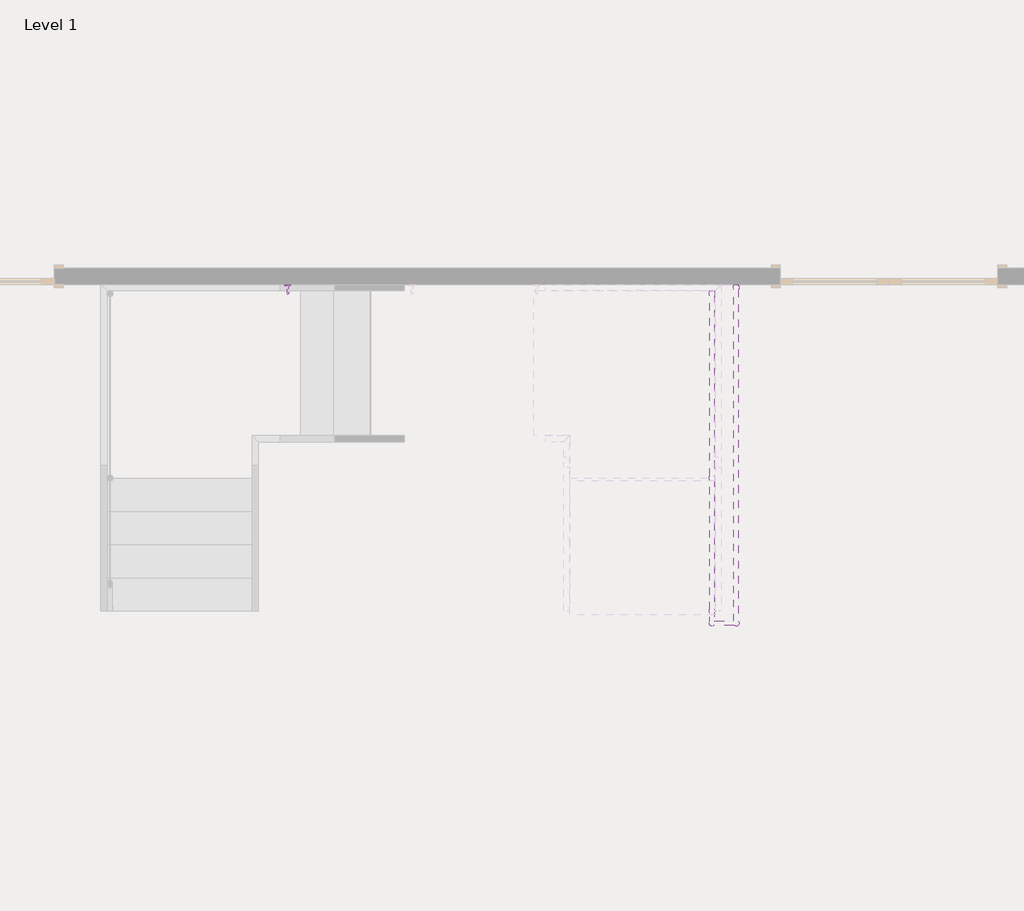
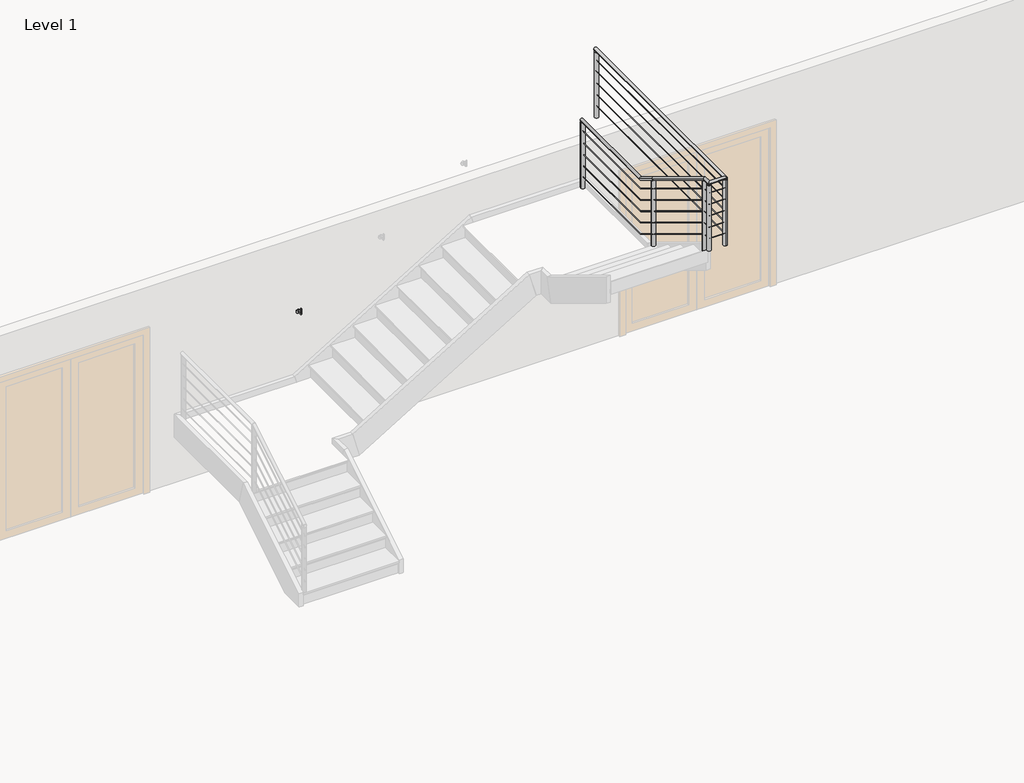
# One storey, part 6 of 7: 1 proxy, 1 railing.
"""IFC4 building model written with IfcOpenShell, lengths in millimetres."""

from ifc_helpers import new_model, si_unit, point, frame, frame_2d, origin, place, context, project, spatial, circle_curve, ellipse_curve, trimmed, segment, composite_curve, outline, extrude, transform, mapped, element, save
from ifc_brep_helpers import plane_surface, cylinder_surface, advanced_brep
from components import support_metal_circular_support_metal_circular_6fb01533

model = new_model("IFC4")

# Units and contexts
model_context = context("Model", 3, world=origin())
ifc_project = project(units=[si_unit("LENGTHUNIT", "METRE", prefix="MILLI")], contexts=[model_context])

# Site, building, storey
site = spatial("IfcSite", under=ifc_project)
building = spatial("IfcBuilding", under=site)
storey = spatial("IfcBuildingStorey", under=building, Name="Level 1", Elevation=0.0)

# Proxy
placement = place(None, origin())
support_metal_circular_support_metal_circular_shape = support_metal_circular_support_metal_circular_6fb01533(model_context)
element("IfcBuildingElementProxy", 1, Name="Support - Metal - Circular : Support - Metal - Circular", ObjectType="Support - Metal - Circular : Support - Metal - Circular", at=placement, inside=storey, context=model_context, shape_type="MappedRepresentation", body=[
    mapped(support_metal_circular_support_metal_circular_shape, transform((-4174.6676928, 6463.5483604, 1826.9361753), x_axis=(1.0, 0.0, 0.0), y_axis=(0.0, 1.0, 0.0), z_axis=(0.0, 0.0, 1.0))),
])

# Railing
element("IfcRailing", 2, ObjectType="Handrail -Wire", at=placement, inside=storey, context=model_context, shape_type="SolidModel", body=[
    advanced_brep(
    [(-631.467382, 6488.9483604, 3096.6833333), (-593.367382, 6488.9483604, 3096.6833333), (-631.467382, 5188.2262069, 3096.6833333), (-593.367382, 5188.2262069, 3096.6833333), (-593.367382, 4904.2747128, 3268.775148), (-631.467382, 4904.2747128, 3268.775148), (-631.467382, 3791.2262069, 3943.35), (-593.367382, 3791.2262069, 3943.35), (-631.467382, 3675.8983604, 3943.35), (-593.367382, 3713.9983604, 3943.35), (-390.167382, 3675.8983604, 3943.35), (-428.267382, 3713.9983604, 3943.35), (-390.167382, 6539.7483604, 3943.35), (-428.267382, 6539.7483604, 3943.35)],
    [
        (0, 1, circle_curve(frame((-612.417382, 6488.9483604, 3096.6833333), z_axis=(0.0, 1.0, 0.0), x_axis=(1.0, 0.0, 0.0)), 19.05)),
        (1, 0, circle_curve(frame((-612.417382, 6488.9483604, 3096.6833333), z_axis=(0.0, 1.0, 0.0), x_axis=(1.0, 0.0, 0.0)), 19.05)),
        (0, 2),
        (2, 3, ellipse_curve(frame((-612.417382, 5188.2262069, 3096.6833333), z_axis=(0.0, 0.9631193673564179, -0.26907449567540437), x_axis=(0.0, 0.26907449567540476, 0.963119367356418)), 19.7794797, 19.05)),
        (3, 1),
        (3, 2, ellipse_curve(frame((-612.417382, 5188.2262069, 3096.6833333), z_axis=(0.0, 0.9631193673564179, -0.26907449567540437), x_axis=(0.0, 0.26907449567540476, 0.963119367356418)), 19.7794797, 19.05)),
        (4, 5, circle_curve(frame((-612.417382, 4904.2747128, 3268.775148), z_axis=(0.0, -0.8551978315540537, 0.5183017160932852), x_axis=(1.0, 0.0, 0.0)), 19.05)),
        (5, 6),
        (6, 7, ellipse_curve(frame((-612.417382, 3791.2262069, 3943.35), z_axis=(0.0, 0.9631193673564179, -0.26907449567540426), x_axis=(0.0, -0.269074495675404, -0.9631193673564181)), 19.7794797, 19.05)),
        (7, 4),
        (5, 4, circle_curve(frame((-612.417382, 4904.2747128, 3268.775148), z_axis=(0.0, -0.8551978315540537, 0.5183017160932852), x_axis=(1.0, 0.0, 0.0)), 19.05)),
        (7, 6, ellipse_curve(frame((-612.417382, 3791.2262069, 3943.35), z_axis=(0.0, 0.9631193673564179, -0.26907449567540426), x_axis=(0.0, -0.269074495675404, -0.9631193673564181)), 19.7794797, 19.05)),
        (2, 5),
        (4, 3),
        (6, 8),
        (8, 9, ellipse_curve(frame((-612.417382, 3694.9483604, 3943.35), z_axis=(-0.7071067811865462, 0.7071067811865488, 0.0), x_axis=(0.7071067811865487, 0.7071067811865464, 0.0)), 26.9407684, 19.05)),
        (9, 7),
        (9, 8, ellipse_curve(frame((-612.417382, 3694.9483604, 3943.35), z_axis=(-0.7071067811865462, 0.7071067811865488, 0.0), x_axis=(0.7071067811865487, 0.7071067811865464, 0.0)), 26.9407684, 19.05)),
        (8, 10),
        (10, 11, ellipse_curve(frame((-409.217382, 3694.9483604, 3943.35), z_axis=(-0.7071067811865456, -0.7071067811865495, 0.0), x_axis=(-0.7071067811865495, 0.7071067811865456, 0.0)), 26.9407684, 19.05)),
        (11, 9),
        (11, 10, ellipse_curve(frame((-409.217382, 3694.9483604, 3943.35), z_axis=(-0.7071067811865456, -0.7071067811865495, 0.0), x_axis=(-0.7071067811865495, 0.7071067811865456, 0.0)), 26.9407684, 19.05)),
        (12, 13, circle_curve(frame((-409.217382, 6539.7483604, 3943.35), z_axis=(0.0, 1.0, 0.0), x_axis=(-1.0, 0.0, 0.0)), 19.05)),
        (13, 12, circle_curve(frame((-409.217382, 6539.7483604, 3943.35), z_axis=(0.0, 1.0, 0.0), x_axis=(-1.0, 0.0, 0.0)), 19.05)),
        (10, 12),
        (13, 11),
    ],
    [
        plane_surface(frame((-612.417382, 6488.9483604, 3115.7333333), z_axis=(0.0, 1.0, 0.0), x_axis=(0.0, 0.0, -1.0))),
        cylinder_surface(frame((-612.417382, 6488.9483604, 3096.6833333), z_axis=(0.0, 1.0, 0.0), x_axis=(1.0, 0.0, 0.0)), 19.05),
        cylinder_surface(frame((-612.417382, 4904.2747128, 3268.775148), z_axis=(0.0, 0.8551978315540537, -0.5183017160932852), x_axis=(1.0, 0.0, 0.0)), 19.05),
        cylinder_surface(frame((-612.417382, 5183.6747128, 3099.4418146), z_axis=(0.0, 0.8551978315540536, -0.5183017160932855), x_axis=(1.0, 0.0, 0.0)), 19.05),
        cylinder_surface(frame((-612.417382, 3796.5483604, 3943.35), z_axis=(0.0, 1.0, 0.0), x_axis=(1.0, 0.0, 0.0)), 19.05),
        cylinder_surface(frame((-612.417382, 3694.9483604, 3943.35), z_axis=(-1.0, 0.0, 0.0), x_axis=(0.0, 1.0, 0.0)), 19.05),
        plane_surface(frame((-409.217382, 6539.7483604, 3962.4), z_axis=(0.0, 1.0, 0.0), x_axis=(0.0, 0.0, 1.0))),
        cylinder_surface(frame((-409.217382, 3694.9483604, 3943.35), z_axis=(0.0, -1.0, 0.0), x_axis=(-1.0, 0.0, 0.0)), 19.05),
    ],
    [
        (0, [[1, 2]]),
        (1, [[-1, 3, 4, 5]]),
        (1, [[-2, -5, 6, -3]]),
        (2, [[7, 8, 9, 10]]),
        (2, [[11, -10, 12, -8]]),
        (3, [[-4, 13, -7, 14]]),
        (3, [[-6, -14, -11, -13]]),
        (4, [[-9, 15, 16, 17]]),
        (4, [[-12, -17, 18, -15]]),
        (5, [[-16, 19, 20, 21]]),
        (5, [[-18, -21, 22, -19]]),
        (6, [[23, 24]]),
        (7, [[-20, 25, -24, 26]]),
        (7, [[-22, -26, -23, -25]]),
    ],
),
    advanced_brep(
    [(-615.592382, 6488.9483604, 2960.1583333), (-609.242382, 6488.9483604, 2960.1583333), (-615.592382, 5192.6613349, 2960.1583333), (-609.242382, 5192.6613349, 2960.1583333), (-615.592382, 4914.1483604, 3128.9540754), (-609.242382, 4914.1483604, 3128.9540754)],
    [
        (0, 1, circle_curve(frame((-612.417382, 6488.9483604, 2960.1583333), z_axis=(0.0, 1.0, 0.0), x_axis=(1.0, 0.0, 0.0)), 3.175)),
        (1, 0, circle_curve(frame((-612.417382, 6488.9483604, 2960.1583333), z_axis=(0.0, 1.0, 0.0), x_axis=(1.0, 0.0, 0.0)), 3.175)),
        (0, 2),
        (2, 3, ellipse_curve(frame((-612.417382, 5192.6613349, 2960.1583333), z_axis=(0.0, 0.9631193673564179, -0.26907449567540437), x_axis=(0.0, 0.26907449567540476, 0.963119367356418)), 3.29658, 3.175)),
        (3, 1),
        (3, 2, ellipse_curve(frame((-612.417382, 5192.6613349, 2960.1583333), z_axis=(0.0, 0.9631193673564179, -0.26907449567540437), x_axis=(0.0, 0.26907449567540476, 0.963119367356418)), 3.29658, 3.175)),
        (4, 5, ellipse_curve(frame((-612.417382, 4914.1483604, 3128.9540754), z_axis=(0.0, -1.0, 0.0), x_axis=(0.0, 0.0, -1.0)), 3.7125913, 3.175)),
        (5, 4, ellipse_curve(frame((-612.417382, 4914.1483604, 3128.9540754), z_axis=(0.0, -1.0, 0.0), x_axis=(0.0, 0.0, -1.0)), 3.7125913, 3.175)),
        (2, 4),
        (5, 3),
    ],
    [
        plane_surface(frame((-612.417382, 6488.9483604, 2963.3333333), z_axis=(0.0, 1.0, 0.0), x_axis=(0.0, 0.0, -1.0))),
        cylinder_surface(frame((-612.417382, 6488.9483604, 2960.1583333), z_axis=(0.0, 1.0, 0.0), x_axis=(1.0, 0.0, 0.0)), 3.175),
        plane_surface(frame((-612.417382, 4914.1483604, 3132.6666667), z_axis=(0.0, -1.0, 0.0), x_axis=(0.0, 0.0, -1.0))),
        cylinder_surface(frame((-612.417382, 5191.9027525, 2960.6180802), z_axis=(0.0, 0.8551978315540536, -0.5183017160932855), x_axis=(1.0, 0.0, 0.0)), 3.175),
    ],
    [
        (0, [[1, 2]]),
        (1, [[-1, 3, 4, 5]]),
        (1, [[-2, -5, 6, -3]]),
        (2, [[7, 8]]),
        (3, [[-4, 9, -8, 10]]),
        (3, [[-6, -10, -7, -9]]),
    ],
),
    advanced_brep(
    [(-615.592382, 4914.1483604, 3128.9540754), (-609.242382, 4914.1483604, 3128.9540754), (-615.592382, 3796.5483604, 3806.2874087), (-609.242382, 3796.5483604, 3806.2874087)],
    [
        (0, 1, ellipse_curve(frame((-612.417382, 4914.1483604, 3128.9540754), z_axis=(0.0, 1.0, 0.0), x_axis=(0.0, 0.0, -1.0)), 3.7125913, 3.175)),
        (1, 0, ellipse_curve(frame((-612.417382, 4914.1483604, 3128.9540754), z_axis=(0.0, 1.0, 0.0), x_axis=(0.0, 0.0, -1.0)), 3.7125913, 3.175)),
        (2, 3, ellipse_curve(frame((-612.417382, 3796.5483604, 3806.2874087), z_axis=(0.0, -1.0, 0.0), x_axis=(0.0, 0.0, -1.0)), 3.7125913, 3.175)),
        (3, 2, ellipse_curve(frame((-612.417382, 3796.5483604, 3806.2874087), z_axis=(0.0, -1.0, 0.0), x_axis=(0.0, 0.0, -1.0)), 3.7125913, 3.175)),
        (0, 2),
        (3, 1),
    ],
    [
        plane_surface(frame((-612.417382, 4914.1483604, 3132.6666667), z_axis=(0.0, 1.0, 0.0), x_axis=(0.0, 0.0, -1.0))),
        plane_surface(frame((-612.417382, 3796.5483604, 3810.0), z_axis=(0.0, -1.0, 0.0), x_axis=(0.0, 0.0, -1.0))),
        cylinder_surface(frame((-612.417382, 4912.5027525, 3129.9514136), z_axis=(0.0, 0.8551978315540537, -0.5183017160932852), x_axis=(1.0, 0.0, 0.0)), 3.175),
    ],
    [
        (0, [[1, 2]]),
        (1, [[3, 4]]),
        (2, [[-1, 5, -4, 6]]),
        (2, [[-2, -6, -3, -5]]),
    ],
),
    advanced_brep(
    [(-615.592382, 6488.9483604, 2807.7583333), (-609.242382, 6488.9483604, 2807.7583333), (-615.592382, 5192.6613349, 2807.7583333), (-609.242382, 5192.6613349, 2807.7583333), (-615.592382, 4914.1483604, 2976.5540754), (-609.242382, 4914.1483604, 2976.5540754)],
    [
        (0, 1, circle_curve(frame((-612.417382, 6488.9483604, 2807.7583333), z_axis=(0.0, 1.0, 0.0), x_axis=(1.0, 0.0, 0.0)), 3.175)),
        (1, 0, circle_curve(frame((-612.417382, 6488.9483604, 2807.7583333), z_axis=(0.0, 1.0, 0.0), x_axis=(1.0, 0.0, 0.0)), 3.175)),
        (0, 2),
        (2, 3, ellipse_curve(frame((-612.417382, 5192.6613349, 2807.7583333), z_axis=(0.0, 0.9631193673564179, -0.26907449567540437), x_axis=(0.0, 0.26907449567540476, 0.963119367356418)), 3.29658, 3.175)),
        (3, 1),
        (3, 2, ellipse_curve(frame((-612.417382, 5192.6613349, 2807.7583333), z_axis=(0.0, 0.9631193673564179, -0.26907449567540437), x_axis=(0.0, 0.26907449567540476, 0.963119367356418)), 3.29658, 3.175)),
        (4, 5, ellipse_curve(frame((-612.417382, 4914.1483604, 2976.5540754), z_axis=(0.0, -1.0, 0.0), x_axis=(0.0, 0.0, -1.0)), 3.7125913, 3.175)),
        (5, 4, ellipse_curve(frame((-612.417382, 4914.1483604, 2976.5540754), z_axis=(0.0, -1.0, 0.0), x_axis=(0.0, 0.0, -1.0)), 3.7125913, 3.175)),
        (2, 4),
        (5, 3),
    ],
    [
        plane_surface(frame((-612.417382, 6488.9483604, 2810.9333333), z_axis=(0.0, 1.0, 0.0), x_axis=(0.0, 0.0, -1.0))),
        cylinder_surface(frame((-612.417382, 6488.9483604, 2807.7583333), z_axis=(0.0, 1.0, 0.0), x_axis=(1.0, 0.0, 0.0)), 3.175),
        plane_surface(frame((-612.417382, 4914.1483604, 2980.2666667), z_axis=(0.0, -1.0, 0.0), x_axis=(0.0, 0.0, -1.0))),
        cylinder_surface(frame((-612.417382, 5191.9027525, 2808.2180802), z_axis=(0.0, 0.8551978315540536, -0.5183017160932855), x_axis=(1.0, 0.0, 0.0)), 3.175),
    ],
    [
        (0, [[1, 2]]),
        (1, [[-1, 3, 4, 5]]),
        (1, [[-2, -5, 6, -3]]),
        (2, [[7, 8]]),
        (3, [[-4, 9, -8, 10]]),
        (3, [[-6, -10, -7, -9]]),
    ],
),
    advanced_brep(
    [(-615.592382, 4914.1483604, 2976.5540754), (-609.242382, 4914.1483604, 2976.5540754), (-615.592382, 3796.5483604, 3653.8874087), (-609.242382, 3796.5483604, 3653.8874087)],
    [
        (0, 1, ellipse_curve(frame((-612.417382, 4914.1483604, 2976.5540754), z_axis=(0.0, 1.0, 0.0), x_axis=(0.0, 0.0, -1.0)), 3.7125913, 3.175)),
        (1, 0, ellipse_curve(frame((-612.417382, 4914.1483604, 2976.5540754), z_axis=(0.0, 1.0, 0.0), x_axis=(0.0, 0.0, -1.0)), 3.7125913, 3.175)),
        (2, 3, ellipse_curve(frame((-612.417382, 3796.5483604, 3653.8874087), z_axis=(0.0, -1.0, 0.0), x_axis=(0.0, 0.0, -1.0)), 3.7125913, 3.175)),
        (3, 2, ellipse_curve(frame((-612.417382, 3796.5483604, 3653.8874087), z_axis=(0.0, -1.0, 0.0), x_axis=(0.0, 0.0, -1.0)), 3.7125913, 3.175)),
        (0, 2),
        (3, 1),
    ],
    [
        plane_surface(frame((-612.417382, 4914.1483604, 2980.2666667), z_axis=(0.0, 1.0, 0.0), x_axis=(0.0, 0.0, -1.0))),
        plane_surface(frame((-612.417382, 3796.5483604, 3657.6), z_axis=(0.0, -1.0, 0.0), x_axis=(0.0, 0.0, -1.0))),
        cylinder_surface(frame((-612.417382, 4912.5027525, 2977.5514136), z_axis=(0.0, 0.8551978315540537, -0.5183017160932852), x_axis=(1.0, 0.0, 0.0)), 3.175),
    ],
    [
        (0, [[1, 2]]),
        (1, [[3, 4]]),
        (2, [[-1, 5, -4, 6]]),
        (2, [[-2, -6, -3, -5]]),
    ],
),
    advanced_brep(
    [(-615.592382, 6488.9483604, 2655.3583333), (-609.242382, 6488.9483604, 2655.3583333), (-615.592382, 5192.6613349, 2655.3583333), (-609.242382, 5192.6613349, 2655.3583333), (-615.592382, 4914.1483604, 2824.1540754), (-609.242382, 4914.1483604, 2824.1540754)],
    [
        (0, 1, circle_curve(frame((-612.417382, 6488.9483604, 2655.3583333), z_axis=(0.0, 1.0, 0.0), x_axis=(1.0, 0.0, 0.0)), 3.175)),
        (1, 0, circle_curve(frame((-612.417382, 6488.9483604, 2655.3583333), z_axis=(0.0, 1.0, 0.0), x_axis=(1.0, 0.0, 0.0)), 3.175)),
        (0, 2),
        (2, 3, ellipse_curve(frame((-612.417382, 5192.6613349, 2655.3583333), z_axis=(0.0, 0.9631193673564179, -0.26907449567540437), x_axis=(0.0, 0.26907449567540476, 0.963119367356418)), 3.29658, 3.175)),
        (3, 1),
        (3, 2, ellipse_curve(frame((-612.417382, 5192.6613349, 2655.3583333), z_axis=(0.0, 0.9631193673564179, -0.26907449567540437), x_axis=(0.0, 0.26907449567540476, 0.963119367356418)), 3.29658, 3.175)),
        (4, 5, ellipse_curve(frame((-612.417382, 4914.1483604, 2824.1540754), z_axis=(0.0, -1.0, 0.0), x_axis=(0.0, 0.0, -1.0)), 3.7125913, 3.175)),
        (5, 4, ellipse_curve(frame((-612.417382, 4914.1483604, 2824.1540754), z_axis=(0.0, -1.0, 0.0), x_axis=(0.0, 0.0, -1.0)), 3.7125913, 3.175)),
        (2, 4),
        (5, 3),
    ],
    [
        plane_surface(frame((-612.417382, 6488.9483604, 2658.5333333), z_axis=(0.0, 1.0, 0.0), x_axis=(0.0, 0.0, -1.0))),
        cylinder_surface(frame((-612.417382, 6488.9483604, 2655.3583333), z_axis=(0.0, 1.0, 0.0), x_axis=(1.0, 0.0, 0.0)), 3.175),
        plane_surface(frame((-612.417382, 4914.1483604, 2827.8666667), z_axis=(0.0, -1.0, 0.0), x_axis=(0.0, 0.0, -1.0))),
        cylinder_surface(frame((-612.417382, 5191.9027525, 2655.8180802), z_axis=(0.0, 0.8551978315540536, -0.5183017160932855), x_axis=(1.0, 0.0, 0.0)), 3.175),
    ],
    [
        (0, [[1, 2]]),
        (1, [[-1, 3, 4, 5]]),
        (1, [[-2, -5, 6, -3]]),
        (2, [[7, 8]]),
        (3, [[-4, 9, -8, 10]]),
        (3, [[-6, -10, -7, -9]]),
    ],
),
    advanced_brep(
    [(-615.592382, 4914.1483604, 2824.1540754), (-609.242382, 4914.1483604, 2824.1540754), (-615.592382, 3796.5483604, 3501.4874087), (-609.242382, 3796.5483604, 3501.4874087)],
    [
        (0, 1, ellipse_curve(frame((-612.417382, 4914.1483604, 2824.1540754), z_axis=(0.0, 1.0, 0.0), x_axis=(0.0, 0.0, -1.0)), 3.7125913, 3.175)),
        (1, 0, ellipse_curve(frame((-612.417382, 4914.1483604, 2824.1540754), z_axis=(0.0, 1.0, 0.0), x_axis=(0.0, 0.0, -1.0)), 3.7125913, 3.175)),
        (2, 3, ellipse_curve(frame((-612.417382, 3796.5483604, 3501.4874087), z_axis=(0.0, -1.0, 0.0), x_axis=(0.0, 0.0, -1.0)), 3.7125913, 3.175)),
        (3, 2, ellipse_curve(frame((-612.417382, 3796.5483604, 3501.4874087), z_axis=(0.0, -1.0, 0.0), x_axis=(0.0, 0.0, -1.0)), 3.7125913, 3.175)),
        (0, 2),
        (3, 1),
    ],
    [
        plane_surface(frame((-612.417382, 4914.1483604, 2827.8666667), z_axis=(0.0, 1.0, 0.0), x_axis=(0.0, 0.0, -1.0))),
        plane_surface(frame((-612.417382, 3796.5483604, 3505.2), z_axis=(0.0, -1.0, 0.0), x_axis=(0.0, 0.0, -1.0))),
        cylinder_surface(frame((-612.417382, 4912.5027525, 2825.1514136), z_axis=(0.0, 0.8551978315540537, -0.5183017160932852), x_axis=(1.0, 0.0, 0.0)), 3.175),
    ],
    [
        (0, [[1, 2]]),
        (1, [[3, 4]]),
        (2, [[-1, 5, -4, 6]]),
        (2, [[-2, -6, -3, -5]]),
    ],
),
    advanced_brep(
    [(-615.592382, 6488.9483604, 2502.9583333), (-609.242382, 6488.9483604, 2502.9583333), (-615.592382, 5192.6613349, 2502.9583333), (-609.242382, 5192.6613349, 2502.9583333), (-615.592382, 4914.1483604, 2671.7540754), (-609.242382, 4914.1483604, 2671.7540754)],
    [
        (0, 1, circle_curve(frame((-612.417382, 6488.9483604, 2502.9583333), z_axis=(0.0, 1.0, 0.0), x_axis=(1.0, 0.0, 0.0)), 3.175)),
        (1, 0, circle_curve(frame((-612.417382, 6488.9483604, 2502.9583333), z_axis=(0.0, 1.0, 0.0), x_axis=(1.0, 0.0, 0.0)), 3.175)),
        (0, 2),
        (2, 3, ellipse_curve(frame((-612.417382, 5192.6613349, 2502.9583333), z_axis=(0.0, 0.9631193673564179, -0.26907449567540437), x_axis=(0.0, 0.26907449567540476, 0.963119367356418)), 3.29658, 3.175)),
        (3, 1),
        (3, 2, ellipse_curve(frame((-612.417382, 5192.6613349, 2502.9583333), z_axis=(0.0, 0.9631193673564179, -0.26907449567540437), x_axis=(0.0, 0.26907449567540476, 0.963119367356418)), 3.29658, 3.175)),
        (4, 5, ellipse_curve(frame((-612.417382, 4914.1483604, 2671.7540754), z_axis=(0.0, -1.0, 0.0), x_axis=(0.0, 0.0, -1.0)), 3.7125913, 3.175)),
        (5, 4, ellipse_curve(frame((-612.417382, 4914.1483604, 2671.7540754), z_axis=(0.0, -1.0, 0.0), x_axis=(0.0, 0.0, -1.0)), 3.7125913, 3.175)),
        (2, 4),
        (5, 3),
    ],
    [
        plane_surface(frame((-612.417382, 6488.9483604, 2506.1333333), z_axis=(0.0, 1.0, 0.0), x_axis=(0.0, 0.0, -1.0))),
        cylinder_surface(frame((-612.417382, 6488.9483604, 2502.9583333), z_axis=(0.0, 1.0, 0.0), x_axis=(1.0, 0.0, 0.0)), 3.175),
        plane_surface(frame((-612.417382, 4914.1483604, 2675.4666667), z_axis=(0.0, -1.0, 0.0), x_axis=(0.0, 0.0, -1.0))),
        cylinder_surface(frame((-612.417382, 5191.9027525, 2503.4180802), z_axis=(0.0, 0.8551978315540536, -0.5183017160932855), x_axis=(1.0, 0.0, 0.0)), 3.175),
    ],
    [
        (0, [[1, 2]]),
        (1, [[-1, 3, 4, 5]]),
        (1, [[-2, -5, 6, -3]]),
        (2, [[7, 8]]),
        (3, [[-4, 9, -8, 10]]),
        (3, [[-6, -10, -7, -9]]),
    ],
),
    advanced_brep(
    [(-615.592382, 4914.1483604, 2671.7540754), (-609.242382, 4914.1483604, 2671.7540754), (-615.592382, 3796.5483604, 3349.0874087), (-609.242382, 3796.5483604, 3349.0874087)],
    [
        (0, 1, ellipse_curve(frame((-612.417382, 4914.1483604, 2671.7540754), z_axis=(0.0, 1.0, 0.0), x_axis=(0.0, 0.0, -1.0)), 3.7125913, 3.175)),
        (1, 0, ellipse_curve(frame((-612.417382, 4914.1483604, 2671.7540754), z_axis=(0.0, 1.0, 0.0), x_axis=(0.0, 0.0, -1.0)), 3.7125913, 3.175)),
        (2, 3, ellipse_curve(frame((-612.417382, 3796.5483604, 3349.0874087), z_axis=(0.0, -1.0, 0.0), x_axis=(0.0, 0.0, -1.0)), 3.7125913, 3.175)),
        (3, 2, ellipse_curve(frame((-612.417382, 3796.5483604, 3349.0874087), z_axis=(0.0, -1.0, 0.0), x_axis=(0.0, 0.0, -1.0)), 3.7125913, 3.175)),
        (0, 2),
        (3, 1),
    ],
    [
        plane_surface(frame((-612.417382, 4914.1483604, 2675.4666667), z_axis=(0.0, 1.0, 0.0), x_axis=(0.0, 0.0, -1.0))),
        plane_surface(frame((-612.417382, 3796.5483604, 3352.8), z_axis=(0.0, -1.0, 0.0), x_axis=(0.0, 0.0, -1.0))),
        cylinder_surface(frame((-612.417382, 4912.5027525, 2672.7514136), z_axis=(0.0, 0.8551978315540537, -0.5183017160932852), x_axis=(1.0, 0.0, 0.0)), 3.175),
    ],
    [
        (0, [[1, 2]]),
        (1, [[3, 4]]),
        (2, [[-1, 5, -4, 6]]),
        (2, [[-2, -6, -3, -5]]),
    ],
),
    advanced_brep(
    [(-615.592382, 6488.9483604, 2350.5583333), (-609.242382, 6488.9483604, 2350.5583333), (-615.592382, 5192.6613349, 2350.5583333), (-609.242382, 5192.6613349, 2350.5583333), (-615.592382, 4914.1483604, 2519.3540754), (-609.242382, 4914.1483604, 2519.3540754)],
    [
        (0, 1, circle_curve(frame((-612.417382, 6488.9483604, 2350.5583333), z_axis=(0.0, 1.0, 0.0), x_axis=(1.0, 0.0, 0.0)), 3.175)),
        (1, 0, circle_curve(frame((-612.417382, 6488.9483604, 2350.5583333), z_axis=(0.0, 1.0, 0.0), x_axis=(1.0, 0.0, 0.0)), 3.175)),
        (0, 2),
        (2, 3, ellipse_curve(frame((-612.417382, 5192.6613349, 2350.5583333), z_axis=(0.0, 0.9631193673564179, -0.26907449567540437), x_axis=(0.0, 0.26907449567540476, 0.963119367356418)), 3.29658, 3.175)),
        (3, 1),
        (3, 2, ellipse_curve(frame((-612.417382, 5192.6613349, 2350.5583333), z_axis=(0.0, 0.9631193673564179, -0.26907449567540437), x_axis=(0.0, 0.26907449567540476, 0.963119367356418)), 3.29658, 3.175)),
        (4, 5, ellipse_curve(frame((-612.417382, 4914.1483604, 2519.3540754), z_axis=(0.0, -1.0, 0.0), x_axis=(0.0, 0.0, -1.0)), 3.7125913, 3.175)),
        (5, 4, ellipse_curve(frame((-612.417382, 4914.1483604, 2519.3540754), z_axis=(0.0, -1.0, 0.0), x_axis=(0.0, 0.0, -1.0)), 3.7125913, 3.175)),
        (2, 4),
        (5, 3),
    ],
    [
        plane_surface(frame((-612.417382, 6488.9483604, 2353.7333333), z_axis=(0.0, 1.0, 0.0), x_axis=(0.0, 0.0, -1.0))),
        cylinder_surface(frame((-612.417382, 6488.9483604, 2350.5583333), z_axis=(0.0, 1.0, 0.0), x_axis=(1.0, 0.0, 0.0)), 3.175),
        plane_surface(frame((-612.417382, 4914.1483604, 2523.0666667), z_axis=(0.0, -1.0, 0.0), x_axis=(0.0, 0.0, -1.0))),
        cylinder_surface(frame((-612.417382, 5191.9027525, 2351.0180802), z_axis=(0.0, 0.8551978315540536, -0.5183017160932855), x_axis=(1.0, 0.0, 0.0)), 3.175),
    ],
    [
        (0, [[1, 2]]),
        (1, [[-1, 3, 4, 5]]),
        (1, [[-2, -5, 6, -3]]),
        (2, [[7, 8]]),
        (3, [[-4, 9, -8, 10]]),
        (3, [[-6, -10, -7, -9]]),
    ],
),
    advanced_brep(
    [(-615.592382, 4914.1483604, 2519.3540754), (-609.242382, 4914.1483604, 2519.3540754), (-615.592382, 3796.5483604, 3196.6874087), (-609.242382, 3796.5483604, 3196.6874087)],
    [
        (0, 1, ellipse_curve(frame((-612.417382, 4914.1483604, 2519.3540754), z_axis=(0.0, 1.0, 0.0), x_axis=(0.0, 0.0, -1.0)), 3.7125913, 3.175)),
        (1, 0, ellipse_curve(frame((-612.417382, 4914.1483604, 2519.3540754), z_axis=(0.0, 1.0, 0.0), x_axis=(0.0, 0.0, -1.0)), 3.7125913, 3.175)),
        (2, 3, ellipse_curve(frame((-612.417382, 3796.5483604, 3196.6874087), z_axis=(0.0, -1.0, 0.0), x_axis=(0.0, 0.0, -1.0)), 3.7125913, 3.175)),
        (3, 2, ellipse_curve(frame((-612.417382, 3796.5483604, 3196.6874087), z_axis=(0.0, -1.0, 0.0), x_axis=(0.0, 0.0, -1.0)), 3.7125913, 3.175)),
        (0, 2),
        (3, 1),
    ],
    [
        plane_surface(frame((-612.417382, 4914.1483604, 2523.0666667), z_axis=(0.0, 1.0, 0.0), x_axis=(0.0, 0.0, -1.0))),
        plane_surface(frame((-612.417382, 3796.5483604, 3200.4), z_axis=(0.0, -1.0, 0.0), x_axis=(0.0, 0.0, -1.0))),
        cylinder_surface(frame((-612.417382, 4912.5027525, 2520.3514136), z_axis=(0.0, 0.8551978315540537, -0.5183017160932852), x_axis=(1.0, 0.0, 0.0)), 3.175),
    ],
    [
        (0, [[1, 2]]),
        (1, [[3, 4]]),
        (2, [[-1, 5, -4, 6]]),
        (2, [[-2, -6, -3, -5]]),
    ],
),
    advanced_brep(
    [(-615.592382, 3796.5483604, 3806.825), (-609.242382, 3796.5483604, 3806.825), (-615.592382, 3698.1233604, 3806.825), (-609.242382, 3698.1233604, 3806.825)],
    [
        (0, 1, circle_curve(frame((-612.417382, 3796.5483604, 3806.825), z_axis=(0.0, 1.0, 0.0), x_axis=(1.0, 0.0, 0.0)), 3.175)),
        (1, 0, circle_curve(frame((-612.417382, 3796.5483604, 3806.825), z_axis=(0.0, 1.0, 0.0), x_axis=(1.0, 0.0, 0.0)), 3.175)),
        (2, 3, circle_curve(frame((-612.417382, 3698.1233604, 3806.825), z_axis=(0.0, -1.0, 0.0), x_axis=(1.0, 0.0, 0.0)), 3.175)),
        (3, 2, circle_curve(frame((-612.417382, 3698.1233604, 3806.825), z_axis=(0.0, -1.0, 0.0), x_axis=(1.0, 0.0, 0.0)), 3.175)),
        (0, 2),
        (3, 1),
    ],
    [
        plane_surface(frame((-612.417382, 3796.5483604, 3810.0), z_axis=(0.0, 1.0, 0.0), x_axis=(0.0, 0.0, -1.0))),
        plane_surface(frame((-612.417382, 3698.1233604, 3810.0), z_axis=(0.0, -1.0, 0.0), x_axis=(0.0, 0.0, -1.0))),
        cylinder_surface(frame((-612.417382, 3796.5483604, 3806.825), z_axis=(0.0, 1.0, 0.0), x_axis=(1.0, 0.0, 0.0)), 3.175),
    ],
    [
        (0, [[1, 2]]),
        (1, [[3, 4]]),
        (2, [[-1, 5, -4, 6]]),
        (2, [[-2, -6, -3, -5]]),
    ],
),
    advanced_brep(
    [(-615.592382, 3691.7733604, 3806.825), (-615.592382, 3698.1233604, 3806.825), (-412.392382, 3691.7733604, 3806.825), (-412.392382, 3698.1233604, 3806.825)],
    [
        (0, 1, circle_curve(frame((-615.592382, 3694.9483604, 3806.825), z_axis=(-1.0, 0.0, 0.0), x_axis=(0.0, 1.0, 0.0)), 3.175)),
        (1, 0, circle_curve(frame((-615.592382, 3694.9483604, 3806.825), z_axis=(-1.0, 0.0, 0.0), x_axis=(0.0, 1.0, 0.0)), 3.175)),
        (2, 3, circle_curve(frame((-412.392382, 3694.9483604, 3806.825), z_axis=(1.0, 0.0, 0.0), x_axis=(0.0, 1.0, 0.0)), 3.175)),
        (3, 2, circle_curve(frame((-412.392382, 3694.9483604, 3806.825), z_axis=(1.0, 0.0, 0.0), x_axis=(0.0, 1.0, 0.0)), 3.175)),
        (0, 2),
        (3, 1),
    ],
    [
        plane_surface(frame((-615.592382, 3694.9483604, 3810.0), z_axis=(-1.0, 0.0, 0.0), x_axis=(0.0, 1.0, 0.0))),
        plane_surface(frame((-412.392382, 3694.9483604, 3810.0), z_axis=(1.0, 0.0, 0.0), x_axis=(0.0, 1.0, 0.0))),
        cylinder_surface(frame((-615.592382, 3694.9483604, 3806.825), z_axis=(-1.0, 0.0, 0.0), x_axis=(0.0, 1.0, 0.0)), 3.175),
    ],
    [
        (0, [[1, 2]]),
        (1, [[3, 4]]),
        (2, [[-1, 5, -4, 6]]),
        (2, [[-2, -6, -3, -5]]),
    ],
),
    advanced_brep(
    [(-406.042382, 3691.7733604, 3806.825), (-412.392382, 3691.7733604, 3806.825), (-406.042382, 6539.7483604, 3806.825), (-412.392382, 6539.7483604, 3806.825)],
    [
        (0, 1, circle_curve(frame((-409.217382, 3691.7733604, 3806.825), z_axis=(0.0, -1.0, 0.0), x_axis=(-1.0, 0.0, 0.0)), 3.175)),
        (1, 0, circle_curve(frame((-409.217382, 3691.7733604, 3806.825), z_axis=(0.0, -1.0, 0.0), x_axis=(-1.0, 0.0, 0.0)), 3.175)),
        (2, 3, circle_curve(frame((-409.217382, 6539.7483604, 3806.825), z_axis=(0.0, 1.0, 0.0), x_axis=(-1.0, 0.0, 0.0)), 3.175)),
        (3, 2, circle_curve(frame((-409.217382, 6539.7483604, 3806.825), z_axis=(0.0, 1.0, 0.0), x_axis=(-1.0, 0.0, 0.0)), 3.175)),
        (0, 2),
        (3, 1),
    ],
    [
        plane_surface(frame((-409.217382, 3691.7733604, 3810.0), z_axis=(0.0, -1.0, 0.0), x_axis=(0.0, 0.0, 1.0))),
        plane_surface(frame((-409.217382, 6539.7483604, 3810.0), z_axis=(0.0, 1.0, 0.0), x_axis=(0.0, 0.0, 1.0))),
        cylinder_surface(frame((-409.217382, 3691.7733604, 3806.825), z_axis=(0.0, -1.0, 0.0), x_axis=(-1.0, 0.0, 0.0)), 3.175),
    ],
    [
        (0, [[1, 2]]),
        (1, [[3, 4]]),
        (2, [[-1, 5, -4, 6]]),
        (2, [[-2, -6, -3, -5]]),
    ],
),
    advanced_brep(
    [(-615.592382, 3796.5483604, 3654.425), (-609.242382, 3796.5483604, 3654.425), (-615.592382, 3698.1233604, 3654.425), (-609.242382, 3698.1233604, 3654.425)],
    [
        (0, 1, circle_curve(frame((-612.417382, 3796.5483604, 3654.425), z_axis=(0.0, 1.0, 0.0), x_axis=(1.0, 0.0, 0.0)), 3.175)),
        (1, 0, circle_curve(frame((-612.417382, 3796.5483604, 3654.425), z_axis=(0.0, 1.0, 0.0), x_axis=(1.0, 0.0, 0.0)), 3.175)),
        (2, 3, circle_curve(frame((-612.417382, 3698.1233604, 3654.425), z_axis=(0.0, -1.0, 0.0), x_axis=(1.0, 0.0, 0.0)), 3.175)),
        (3, 2, circle_curve(frame((-612.417382, 3698.1233604, 3654.425), z_axis=(0.0, -1.0, 0.0), x_axis=(1.0, 0.0, 0.0)), 3.175)),
        (0, 2),
        (3, 1),
    ],
    [
        plane_surface(frame((-612.417382, 3796.5483604, 3657.6), z_axis=(0.0, 1.0, 0.0), x_axis=(0.0, 0.0, -1.0))),
        plane_surface(frame((-612.417382, 3698.1233604, 3657.6), z_axis=(0.0, -1.0, 0.0), x_axis=(0.0, 0.0, -1.0))),
        cylinder_surface(frame((-612.417382, 3796.5483604, 3654.425), z_axis=(0.0, 1.0, 0.0), x_axis=(1.0, 0.0, 0.0)), 3.175),
    ],
    [
        (0, [[1, 2]]),
        (1, [[3, 4]]),
        (2, [[-1, 5, -4, 6]]),
        (2, [[-2, -6, -3, -5]]),
    ],
),
    advanced_brep(
    [(-615.592382, 3691.7733604, 3654.425), (-615.592382, 3698.1233604, 3654.425), (-412.392382, 3691.7733604, 3654.425), (-412.392382, 3698.1233604, 3654.425)],
    [
        (0, 1, circle_curve(frame((-615.592382, 3694.9483604, 3654.425), z_axis=(-1.0, 0.0, 0.0), x_axis=(0.0, 1.0, 0.0)), 3.175)),
        (1, 0, circle_curve(frame((-615.592382, 3694.9483604, 3654.425), z_axis=(-1.0, 0.0, 0.0), x_axis=(0.0, 1.0, 0.0)), 3.175)),
        (2, 3, circle_curve(frame((-412.392382, 3694.9483604, 3654.425), z_axis=(1.0, 0.0, 0.0), x_axis=(0.0, 1.0, 0.0)), 3.175)),
        (3, 2, circle_curve(frame((-412.392382, 3694.9483604, 3654.425), z_axis=(1.0, 0.0, 0.0), x_axis=(0.0, 1.0, 0.0)), 3.175)),
        (0, 2),
        (3, 1),
    ],
    [
        plane_surface(frame((-615.592382, 3694.9483604, 3657.6), z_axis=(-1.0, 0.0, 0.0), x_axis=(0.0, 1.0, 0.0))),
        plane_surface(frame((-412.392382, 3694.9483604, 3657.6), z_axis=(1.0, 0.0, 0.0), x_axis=(0.0, 1.0, 0.0))),
        cylinder_surface(frame((-615.592382, 3694.9483604, 3654.425), z_axis=(-1.0, 0.0, 0.0), x_axis=(0.0, 1.0, 0.0)), 3.175),
    ],
    [
        (0, [[1, 2]]),
        (1, [[3, 4]]),
        (2, [[-1, 5, -4, 6]]),
        (2, [[-2, -6, -3, -5]]),
    ],
),
    advanced_brep(
    [(-406.042382, 3691.7733604, 3654.425), (-412.392382, 3691.7733604, 3654.425), (-406.042382, 6539.7483604, 3654.425), (-412.392382, 6539.7483604, 3654.425)],
    [
        (0, 1, circle_curve(frame((-409.217382, 3691.7733604, 3654.425), z_axis=(0.0, -1.0, 0.0), x_axis=(-1.0, 0.0, 0.0)), 3.175)),
        (1, 0, circle_curve(frame((-409.217382, 3691.7733604, 3654.425), z_axis=(0.0, -1.0, 0.0), x_axis=(-1.0, 0.0, 0.0)), 3.175)),
        (2, 3, circle_curve(frame((-409.217382, 6539.7483604, 3654.425), z_axis=(0.0, 1.0, 0.0), x_axis=(-1.0, 0.0, 0.0)), 3.175)),
        (3, 2, circle_curve(frame((-409.217382, 6539.7483604, 3654.425), z_axis=(0.0, 1.0, 0.0), x_axis=(-1.0, 0.0, 0.0)), 3.175)),
        (0, 2),
        (3, 1),
    ],
    [
        plane_surface(frame((-409.217382, 3691.7733604, 3657.6), z_axis=(0.0, -1.0, 0.0), x_axis=(0.0, 0.0, 1.0))),
        plane_surface(frame((-409.217382, 6539.7483604, 3657.6), z_axis=(0.0, 1.0, 0.0), x_axis=(0.0, 0.0, 1.0))),
        cylinder_surface(frame((-409.217382, 3691.7733604, 3654.425), z_axis=(0.0, -1.0, 0.0), x_axis=(-1.0, 0.0, 0.0)), 3.175),
    ],
    [
        (0, [[1, 2]]),
        (1, [[3, 4]]),
        (2, [[-1, 5, -4, 6]]),
        (2, [[-2, -6, -3, -5]]),
    ],
),
    advanced_brep(
    [(-615.592382, 3796.5483604, 3502.025), (-609.242382, 3796.5483604, 3502.025), (-615.592382, 3698.1233604, 3502.025), (-609.242382, 3698.1233604, 3502.025)],
    [
        (0, 1, circle_curve(frame((-612.417382, 3796.5483604, 3502.025), z_axis=(0.0, 1.0, 0.0), x_axis=(1.0, 0.0, 0.0)), 3.175)),
        (1, 0, circle_curve(frame((-612.417382, 3796.5483604, 3502.025), z_axis=(0.0, 1.0, 0.0), x_axis=(1.0, 0.0, 0.0)), 3.175)),
        (2, 3, circle_curve(frame((-612.417382, 3698.1233604, 3502.025), z_axis=(0.0, -1.0, 0.0), x_axis=(1.0, 0.0, 0.0)), 3.175)),
        (3, 2, circle_curve(frame((-612.417382, 3698.1233604, 3502.025), z_axis=(0.0, -1.0, 0.0), x_axis=(1.0, 0.0, 0.0)), 3.175)),
        (0, 2),
        (3, 1),
    ],
    [
        plane_surface(frame((-612.417382, 3796.5483604, 3505.2), z_axis=(0.0, 1.0, 0.0), x_axis=(0.0, 0.0, -1.0))),
        plane_surface(frame((-612.417382, 3698.1233604, 3505.2), z_axis=(0.0, -1.0, 0.0), x_axis=(0.0, 0.0, -1.0))),
        cylinder_surface(frame((-612.417382, 3796.5483604, 3502.025), z_axis=(0.0, 1.0, 0.0), x_axis=(1.0, 0.0, 0.0)), 3.175),
    ],
    [
        (0, [[1, 2]]),
        (1, [[3, 4]]),
        (2, [[-1, 5, -4, 6]]),
        (2, [[-2, -6, -3, -5]]),
    ],
),
    advanced_brep(
    [(-615.592382, 3691.7733604, 3502.025), (-615.592382, 3698.1233604, 3502.025), (-412.392382, 3691.7733604, 3502.025), (-412.392382, 3698.1233604, 3502.025)],
    [
        (0, 1, circle_curve(frame((-615.592382, 3694.9483604, 3502.025), z_axis=(-1.0, 0.0, 0.0), x_axis=(0.0, 1.0, 0.0)), 3.175)),
        (1, 0, circle_curve(frame((-615.592382, 3694.9483604, 3502.025), z_axis=(-1.0, 0.0, 0.0), x_axis=(0.0, 1.0, 0.0)), 3.175)),
        (2, 3, circle_curve(frame((-412.392382, 3694.9483604, 3502.025), z_axis=(1.0, 0.0, 0.0), x_axis=(0.0, 1.0, 0.0)), 3.175)),
        (3, 2, circle_curve(frame((-412.392382, 3694.9483604, 3502.025), z_axis=(1.0, 0.0, 0.0), x_axis=(0.0, 1.0, 0.0)), 3.175)),
        (0, 2),
        (3, 1),
    ],
    [
        plane_surface(frame((-615.592382, 3694.9483604, 3505.2), z_axis=(-1.0, 0.0, 0.0), x_axis=(0.0, 1.0, 0.0))),
        plane_surface(frame((-412.392382, 3694.9483604, 3505.2), z_axis=(1.0, 0.0, 0.0), x_axis=(0.0, 1.0, 0.0))),
        cylinder_surface(frame((-615.592382, 3694.9483604, 3502.025), z_axis=(-1.0, 0.0, 0.0), x_axis=(0.0, 1.0, 0.0)), 3.175),
    ],
    [
        (0, [[1, 2]]),
        (1, [[3, 4]]),
        (2, [[-1, 5, -4, 6]]),
        (2, [[-2, -6, -3, -5]]),
    ],
),
    advanced_brep(
    [(-406.042382, 3691.7733604, 3502.025), (-412.392382, 3691.7733604, 3502.025), (-406.042382, 6539.7483604, 3502.025), (-412.392382, 6539.7483604, 3502.025)],
    [
        (0, 1, circle_curve(frame((-409.217382, 3691.7733604, 3502.025), z_axis=(0.0, -1.0, 0.0), x_axis=(-1.0, 0.0, 0.0)), 3.175)),
        (1, 0, circle_curve(frame((-409.217382, 3691.7733604, 3502.025), z_axis=(0.0, -1.0, 0.0), x_axis=(-1.0, 0.0, 0.0)), 3.175)),
        (2, 3, circle_curve(frame((-409.217382, 6539.7483604, 3502.025), z_axis=(0.0, 1.0, 0.0), x_axis=(-1.0, 0.0, 0.0)), 3.175)),
        (3, 2, circle_curve(frame((-409.217382, 6539.7483604, 3502.025), z_axis=(0.0, 1.0, 0.0), x_axis=(-1.0, 0.0, 0.0)), 3.175)),
        (0, 2),
        (3, 1),
    ],
    [
        plane_surface(frame((-409.217382, 3691.7733604, 3505.2), z_axis=(0.0, -1.0, 0.0), x_axis=(0.0, 0.0, 1.0))),
        plane_surface(frame((-409.217382, 6539.7483604, 3505.2), z_axis=(0.0, 1.0, 0.0), x_axis=(0.0, 0.0, 1.0))),
        cylinder_surface(frame((-409.217382, 3691.7733604, 3502.025), z_axis=(0.0, -1.0, 0.0), x_axis=(-1.0, 0.0, 0.0)), 3.175),
    ],
    [
        (0, [[1, 2]]),
        (1, [[3, 4]]),
        (2, [[-1, 5, -4, 6]]),
        (2, [[-2, -6, -3, -5]]),
    ],
),
    advanced_brep(
    [(-615.592382, 3796.5483604, 3349.625), (-609.242382, 3796.5483604, 3349.625), (-615.592382, 3698.1233604, 3349.625), (-609.242382, 3698.1233604, 3349.625)],
    [
        (0, 1, circle_curve(frame((-612.417382, 3796.5483604, 3349.625), z_axis=(0.0, 1.0, 0.0), x_axis=(1.0, 0.0, 0.0)), 3.175)),
        (1, 0, circle_curve(frame((-612.417382, 3796.5483604, 3349.625), z_axis=(0.0, 1.0, 0.0), x_axis=(1.0, 0.0, 0.0)), 3.175)),
        (2, 3, circle_curve(frame((-612.417382, 3698.1233604, 3349.625), z_axis=(0.0, -1.0, 0.0), x_axis=(1.0, 0.0, 0.0)), 3.175)),
        (3, 2, circle_curve(frame((-612.417382, 3698.1233604, 3349.625), z_axis=(0.0, -1.0, 0.0), x_axis=(1.0, 0.0, 0.0)), 3.175)),
        (0, 2),
        (3, 1),
    ],
    [
        plane_surface(frame((-612.417382, 3796.5483604, 3352.8), z_axis=(0.0, 1.0, 0.0), x_axis=(0.0, 0.0, -1.0))),
        plane_surface(frame((-612.417382, 3698.1233604, 3352.8), z_axis=(0.0, -1.0, 0.0), x_axis=(0.0, 0.0, -1.0))),
        cylinder_surface(frame((-612.417382, 3796.5483604, 3349.625), z_axis=(0.0, 1.0, 0.0), x_axis=(1.0, 0.0, 0.0)), 3.175),
    ],
    [
        (0, [[1, 2]]),
        (1, [[3, 4]]),
        (2, [[-1, 5, -4, 6]]),
        (2, [[-2, -6, -3, -5]]),
    ],
),
    advanced_brep(
    [(-615.592382, 3691.7733604, 3349.625), (-615.592382, 3698.1233604, 3349.625), (-412.392382, 3691.7733604, 3349.625), (-412.392382, 3698.1233604, 3349.625)],
    [
        (0, 1, circle_curve(frame((-615.592382, 3694.9483604, 3349.625), z_axis=(-1.0, 0.0, 0.0), x_axis=(0.0, 1.0, 0.0)), 3.175)),
        (1, 0, circle_curve(frame((-615.592382, 3694.9483604, 3349.625), z_axis=(-1.0, 0.0, 0.0), x_axis=(0.0, 1.0, 0.0)), 3.175)),
        (2, 3, circle_curve(frame((-412.392382, 3694.9483604, 3349.625), z_axis=(1.0, 0.0, 0.0), x_axis=(0.0, 1.0, 0.0)), 3.175)),
        (3, 2, circle_curve(frame((-412.392382, 3694.9483604, 3349.625), z_axis=(1.0, 0.0, 0.0), x_axis=(0.0, 1.0, 0.0)), 3.175)),
        (0, 2),
        (3, 1),
    ],
    [
        plane_surface(frame((-615.592382, 3694.9483604, 3352.8), z_axis=(-1.0, 0.0, 0.0), x_axis=(0.0, 1.0, 0.0))),
        plane_surface(frame((-412.392382, 3694.9483604, 3352.8), z_axis=(1.0, 0.0, 0.0), x_axis=(0.0, 1.0, 0.0))),
        cylinder_surface(frame((-615.592382, 3694.9483604, 3349.625), z_axis=(-1.0, 0.0, 0.0), x_axis=(0.0, 1.0, 0.0)), 3.175),
    ],
    [
        (0, [[1, 2]]),
        (1, [[3, 4]]),
        (2, [[-1, 5, -4, 6]]),
        (2, [[-2, -6, -3, -5]]),
    ],
),
    advanced_brep(
    [(-406.042382, 3691.7733604, 3349.625), (-412.392382, 3691.7733604, 3349.625), (-406.042382, 6539.7483604, 3349.625), (-412.392382, 6539.7483604, 3349.625)],
    [
        (0, 1, circle_curve(frame((-409.217382, 3691.7733604, 3349.625), z_axis=(0.0, -1.0, 0.0), x_axis=(-1.0, 0.0, 0.0)), 3.175)),
        (1, 0, circle_curve(frame((-409.217382, 3691.7733604, 3349.625), z_axis=(0.0, -1.0, 0.0), x_axis=(-1.0, 0.0, 0.0)), 3.175)),
        (2, 3, circle_curve(frame((-409.217382, 6539.7483604, 3349.625), z_axis=(0.0, 1.0, 0.0), x_axis=(-1.0, 0.0, 0.0)), 3.175)),
        (3, 2, circle_curve(frame((-409.217382, 6539.7483604, 3349.625), z_axis=(0.0, 1.0, 0.0), x_axis=(-1.0, 0.0, 0.0)), 3.175)),
        (0, 2),
        (3, 1),
    ],
    [
        plane_surface(frame((-409.217382, 3691.7733604, 3352.8), z_axis=(0.0, -1.0, 0.0), x_axis=(0.0, 0.0, 1.0))),
        plane_surface(frame((-409.217382, 6539.7483604, 3352.8), z_axis=(0.0, 1.0, 0.0), x_axis=(0.0, 0.0, 1.0))),
        cylinder_surface(frame((-409.217382, 3691.7733604, 3349.625), z_axis=(0.0, -1.0, 0.0), x_axis=(-1.0, 0.0, 0.0)), 3.175),
    ],
    [
        (0, [[1, 2]]),
        (1, [[3, 4]]),
        (2, [[-1, 5, -4, 6]]),
        (2, [[-2, -6, -3, -5]]),
    ],
),
    advanced_brep(
    [(-615.592382, 3796.5483604, 3197.225), (-609.242382, 3796.5483604, 3197.225), (-615.592382, 3698.1233604, 3197.225), (-609.242382, 3698.1233604, 3197.225)],
    [
        (0, 1, circle_curve(frame((-612.417382, 3796.5483604, 3197.225), z_axis=(0.0, 1.0, 0.0), x_axis=(1.0, 0.0, 0.0)), 3.175)),
        (1, 0, circle_curve(frame((-612.417382, 3796.5483604, 3197.225), z_axis=(0.0, 1.0, 0.0), x_axis=(1.0, 0.0, 0.0)), 3.175)),
        (2, 3, circle_curve(frame((-612.417382, 3698.1233604, 3197.225), z_axis=(0.0, -1.0, 0.0), x_axis=(1.0, 0.0, 0.0)), 3.175)),
        (3, 2, circle_curve(frame((-612.417382, 3698.1233604, 3197.225), z_axis=(0.0, -1.0, 0.0), x_axis=(1.0, 0.0, 0.0)), 3.175)),
        (0, 2),
        (3, 1),
    ],
    [
        plane_surface(frame((-612.417382, 3796.5483604, 3200.4), z_axis=(0.0, 1.0, 0.0), x_axis=(0.0, 0.0, -1.0))),
        plane_surface(frame((-612.417382, 3698.1233604, 3200.4), z_axis=(0.0, -1.0, 0.0), x_axis=(0.0, 0.0, -1.0))),
        cylinder_surface(frame((-612.417382, 3796.5483604, 3197.225), z_axis=(0.0, 1.0, 0.0), x_axis=(1.0, 0.0, 0.0)), 3.175),
    ],
    [
        (0, [[1, 2]]),
        (1, [[3, 4]]),
        (2, [[-1, 5, -4, 6]]),
        (2, [[-2, -6, -3, -5]]),
    ],
),
    advanced_brep(
    [(-615.592382, 3691.7733604, 3197.225), (-615.592382, 3698.1233604, 3197.225), (-412.392382, 3691.7733604, 3197.225), (-412.392382, 3698.1233604, 3197.225)],
    [
        (0, 1, circle_curve(frame((-615.592382, 3694.9483604, 3197.225), z_axis=(-1.0, 0.0, 0.0), x_axis=(0.0, 1.0, 0.0)), 3.175)),
        (1, 0, circle_curve(frame((-615.592382, 3694.9483604, 3197.225), z_axis=(-1.0, 0.0, 0.0), x_axis=(0.0, 1.0, 0.0)), 3.175)),
        (2, 3, circle_curve(frame((-412.392382, 3694.9483604, 3197.225), z_axis=(1.0, 0.0, 0.0), x_axis=(0.0, 1.0, 0.0)), 3.175)),
        (3, 2, circle_curve(frame((-412.392382, 3694.9483604, 3197.225), z_axis=(1.0, 0.0, 0.0), x_axis=(0.0, 1.0, 0.0)), 3.175)),
        (0, 2),
        (3, 1),
    ],
    [
        plane_surface(frame((-615.592382, 3694.9483604, 3200.4), z_axis=(-1.0, 0.0, 0.0), x_axis=(0.0, 1.0, 0.0))),
        plane_surface(frame((-412.392382, 3694.9483604, 3200.4), z_axis=(1.0, 0.0, 0.0), x_axis=(0.0, 1.0, 0.0))),
        cylinder_surface(frame((-615.592382, 3694.9483604, 3197.225), z_axis=(-1.0, 0.0, 0.0), x_axis=(0.0, 1.0, 0.0)), 3.175),
    ],
    [
        (0, [[1, 2]]),
        (1, [[3, 4]]),
        (2, [[-1, 5, -4, 6]]),
        (2, [[-2, -6, -3, -5]]),
    ],
),
    advanced_brep(
    [(-406.042382, 3691.7733604, 3197.225), (-412.392382, 3691.7733604, 3197.225), (-406.042382, 6539.7483604, 3197.225), (-412.392382, 6539.7483604, 3197.225)],
    [
        (0, 1, circle_curve(frame((-409.217382, 3691.7733604, 3197.225), z_axis=(0.0, -1.0, 0.0), x_axis=(-1.0, 0.0, 0.0)), 3.175)),
        (1, 0, circle_curve(frame((-409.217382, 3691.7733604, 3197.225), z_axis=(0.0, -1.0, 0.0), x_axis=(-1.0, 0.0, 0.0)), 3.175)),
        (2, 3, circle_curve(frame((-409.217382, 6539.7483604, 3197.225), z_axis=(0.0, 1.0, 0.0), x_axis=(-1.0, 0.0, 0.0)), 3.175)),
        (3, 2, circle_curve(frame((-409.217382, 6539.7483604, 3197.225), z_axis=(0.0, 1.0, 0.0), x_axis=(-1.0, 0.0, 0.0)), 3.175)),
        (0, 2),
        (3, 1),
    ],
    [
        plane_surface(frame((-409.217382, 3691.7733604, 3200.4), z_axis=(0.0, -1.0, 0.0), x_axis=(0.0, 0.0, 1.0))),
        plane_surface(frame((-409.217382, 6539.7483604, 3200.4), z_axis=(0.0, 1.0, 0.0), x_axis=(0.0, 0.0, 1.0))),
        cylinder_surface(frame((-409.217382, 3691.7733604, 3197.225), z_axis=(0.0, -1.0, 0.0), x_axis=(-1.0, 0.0, 0.0)), 3.175),
    ],
    [
        (0, [[1, 2]]),
        (1, [[3, 4]]),
        (2, [[-1, 5, -4, 6]]),
        (2, [[-2, -6, -3, -5]]),
    ],
),
    extrude(outline(composite_curve([segment(trimmed(circle_curve(frame_2d((-409.217382, 3694.9483604)), 25.4), [point((-409.217382, 3669.5483604))], [point((-409.217382, 3720.3483604))], False, "CARTESIAN"), True, "CONTINUOUS"), segment(trimmed(circle_curve(frame_2d((-409.217382, 3694.9483604)), 25.4), [point((-409.217382, 3720.3483604))], [point((-409.217382, 3669.5483604))], False, "CARTESIAN"), True, "CONTINUOUS")], self_intersect=False)), frame((0.0, 0.0, 3048.0), z_axis=(0.0, 0.0, 1.0), x_axis=(1.0, 0.0, 0.0)), (0.0, 0.0, 1.0), 876.3),
    extrude(outline(composite_curve([segment(trimmed(circle_curve(frame_2d((-612.417382, 3694.9483604)), 25.4), [point((-637.817382, 3694.9483604))], [point((-587.017382, 3694.9483604))], False, "CARTESIAN"), True, "CONTINUOUS"), segment(trimmed(circle_curve(frame_2d((-612.417382, 3694.9483604)), 25.4), [point((-587.017382, 3694.9483604))], [point((-637.817382, 3694.9483604))], False, "CARTESIAN"), True, "CONTINUOUS")], self_intersect=False)), frame((0.0, 0.0, 3048.0), z_axis=(0.0, 0.0, 1.0), x_axis=(1.0, 0.0, 0.0)), (0.0, 0.0, 1.0), 876.3),
    advanced_brep(
    [(-587.017382, 3796.5483604, 3917.8489048), (-637.817382, 3796.5483604, 3917.8489048), (-637.817382, 3796.5483604, 2878.6666667), (-587.017382, 3796.5483604, 2878.6666667)],
    [
        (0, 1, ellipse_curve(frame((-612.417382, 3796.5483604, 3917.8489048), z_axis=(0.0, -0.5183017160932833, -0.8551978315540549), x_axis=(0.0, -0.855197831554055, 0.518301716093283)), 29.7007301, 25.4)),
        (1, 2),
        (2, 3, circle_curve(frame((-612.417382, 3796.5483604, 2878.6666667), z_axis=(0.0, 0.0, 1.0), x_axis=(-1.0, 0.0, 0.0)), 25.4)),
        (3, 0),
        (3, 2, circle_curve(frame((-612.417382, 3796.5483604, 2878.6666667), z_axis=(0.0, 0.0, 1.0), x_axis=(-1.0, 0.0, 0.0)), 25.4)),
        (1, 0, ellipse_curve(frame((-612.417382, 3796.5483604, 3917.8489048), z_axis=(0.0, -0.5183017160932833, -0.8551978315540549), x_axis=(0.0, -0.855197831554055, 0.518301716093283)), 29.7007301, 25.4)),
    ],
    [
        cylinder_surface(frame((-612.417382, 3796.5483604, 2650.0666667), z_axis=(0.0, 0.0, 1.0), x_axis=(-1.0, 0.0, 0.0)), 25.4),
        plane_surface(frame((-663.217382, 3745.7483604, 3948.6367836), z_axis=(0.0, 0.5183017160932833, 0.8551978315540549), x_axis=(1.0, 0.0, 0.0))),
        plane_surface(frame((-663.217382, 3847.3483604, 2878.6666667), z_axis=(0.0, 0.0, -1.0), x_axis=(1.0, 0.0, 0.0))),
    ],
    [
        (0, [[1, 2, 3, 4]]),
        (0, [[5, -2, 6, -4]]),
        (1, [[-6, -1]]),
        (2, [[-5, -3]]),
    ],
),
    advanced_brep(
    [(-587.017382, 4914.1483604, 3240.5155715), (-637.817382, 4914.1483604, 3240.5155715), (-637.817382, 4914.1483604, 2201.3333333), (-587.017382, 4914.1483604, 2201.3333333)],
    [
        (0, 1, ellipse_curve(frame((-612.417382, 4914.1483604, 3240.5155715), z_axis=(0.0, -0.5183017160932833, -0.8551978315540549), x_axis=(0.0, -0.855197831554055, 0.518301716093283)), 29.7007301, 25.4)),
        (1, 2),
        (2, 3, circle_curve(frame((-612.417382, 4914.1483604, 2201.3333333), z_axis=(0.0, 0.0, 1.0), x_axis=(-1.0, 0.0, 0.0)), 25.4)),
        (3, 0),
        (3, 2, circle_curve(frame((-612.417382, 4914.1483604, 2201.3333333), z_axis=(0.0, 0.0, 1.0), x_axis=(-1.0, 0.0, 0.0)), 25.4)),
        (1, 0, ellipse_curve(frame((-612.417382, 4914.1483604, 3240.5155715), z_axis=(0.0, -0.5183017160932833, -0.8551978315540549), x_axis=(0.0, -0.855197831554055, 0.518301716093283)), 29.7007301, 25.4)),
    ],
    [
        cylinder_surface(frame((-612.417382, 4914.1483604, 1972.7333333), z_axis=(0.0, 0.0, 1.0), x_axis=(-1.0, 0.0, 0.0)), 25.4),
        plane_surface(frame((-663.217382, 4863.3483604, 3271.3034503), z_axis=(0.0, 0.5183017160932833, 0.8551978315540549), x_axis=(1.0, 0.0, 0.0))),
        plane_surface(frame((-663.217382, 4964.9483604, 2201.3333333), z_axis=(0.0, 0.0, -1.0), x_axis=(1.0, 0.0, 0.0))),
    ],
    [
        (0, [[1, 2, 3, 4]]),
        (0, [[5, -2, 6, -4]]),
        (1, [[-6, -1]]),
        (2, [[-5, -3]]),
    ],
),
    extrude(outline(composite_curve([segment(trimmed(circle_curve(frame_2d((-409.217382, 6514.3483604)), 25.4), [point((-383.817382, 6514.3483604))], [point((-434.617382, 6514.3483604))], False, "CARTESIAN"), True, "CONTINUOUS"), segment(trimmed(circle_curve(frame_2d((-409.217382, 6514.3483604)), 25.4), [point((-434.617382, 6514.3483604))], [point((-383.817382, 6514.3483604))], False, "CARTESIAN"), True, "CONTINUOUS")], self_intersect=False)), frame((0.0, 0.0, 3048.0), z_axis=(0.0, 0.0, 1.0), x_axis=(1.0, 0.0, 0.0)), (0.0, 0.0, 1.0), 876.3),
    extrude(outline(composite_curve([segment(trimmed(circle_curve(frame_2d((-612.417382, 6463.5483604)), 25.4), [point((-637.817382, 6463.5483604))], [point((-587.017382, 6463.5483604))], False, "CARTESIAN"), True, "CONTINUOUS"), segment(trimmed(circle_curve(frame_2d((-612.417382, 6463.5483604)), 25.4), [point((-587.017382, 6463.5483604))], [point((-637.817382, 6463.5483604))], False, "CARTESIAN"), True, "CONTINUOUS")], self_intersect=False)), frame((0.0, 0.0, 2201.3333333), z_axis=(0.0, 0.0, 1.0), x_axis=(1.0, 0.0, 0.0)), (0.0, 0.0, 1.0), 876.3),
])

save(model, "model.ifc")
